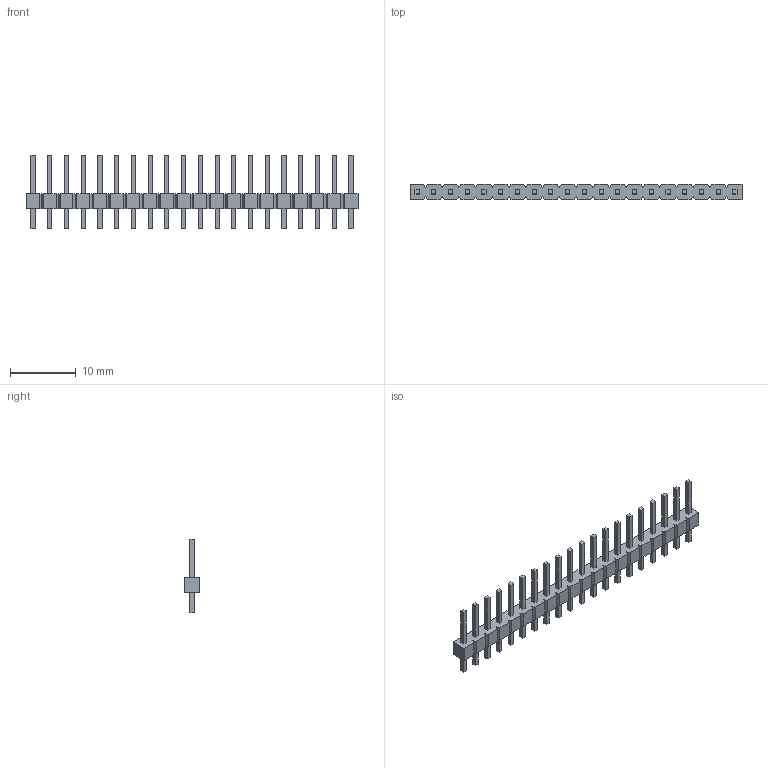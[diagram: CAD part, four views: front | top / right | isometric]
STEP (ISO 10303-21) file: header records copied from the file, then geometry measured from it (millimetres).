
FILE_DESCRIPTION((''),'2;1');
FILE_NAME('C-2-103185-0','2016-06-15T',('workeradm'),('Tyco Electronics Ltd.'),'CREO PARAMETRIC BY PTC INC, 2015200','CREO PARAMETRIC BY PTC INC, 2015200','');
FILE_SCHEMA(('AUTOMOTIVE_DESIGN { 1 0 10303 214 1 1 1 1 }'));
Length unit declared in the file: millimetre
Products named in the file (1): C-2-103185-0
Bounding box: 50.39 x 2.34 x 11.18 mm (x, y, z)
Volume: 325.1 mm3; surface area: 958.8 mm2
Topology: 1 solids, 1 shells, 320 faces, 834 edges, 556 vertices
Faces by surface type: plane 320
Entity records: 9642 total; most frequent: CARTESIAN_POINT 1712, ORIENTED_EDGE 1668, DIRECTION 1474, VECTOR 834, LINE 834, EDGE_CURVE 834, VERTEX_POINT 556, EDGE_LOOP 360
